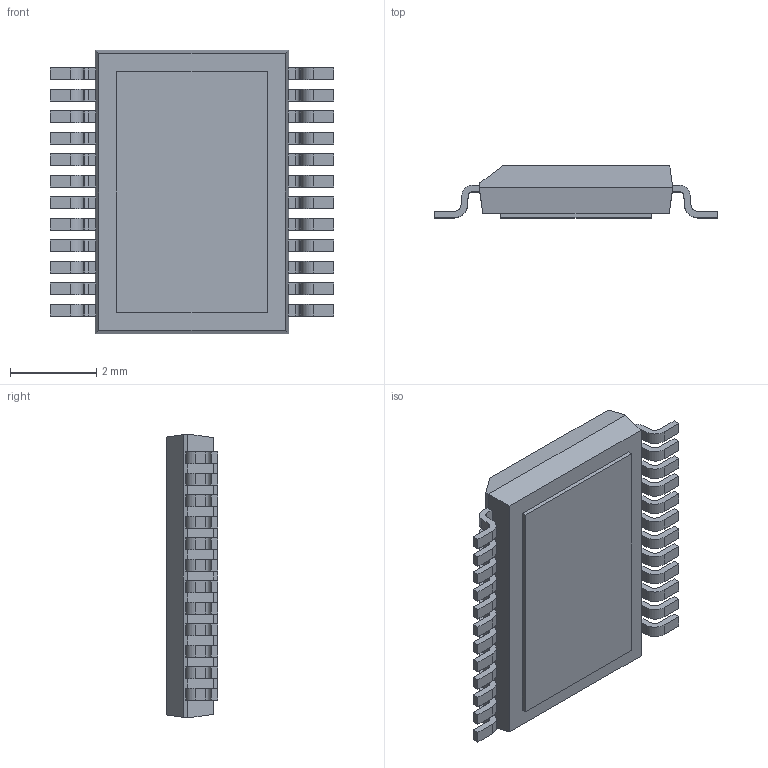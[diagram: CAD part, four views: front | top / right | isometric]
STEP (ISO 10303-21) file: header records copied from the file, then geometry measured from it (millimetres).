
FILE_DESCRIPTION (( 'STEP AP214' ), '1' );
FILE_NAME ('TSSOP50P640X120-24TP_MO-153.BBT.STEP', '2014-10-29T08:29:54', ( 'Tester2' ), ( '' ), 'SwSTEP 2.0', 'SolidWorks 2012', '' );
FILE_SCHEMA (( 'AUTOMOTIVE_DESIGN' ));
Length unit declared in the file: millimetre
Products named in the file (1): TSSOP50P640X120-24TP_MO-153.BBT
Bounding box: 6.6 x 1.2 x 6.6 mm (x, y, z)
Volume: 34.5 mm3; surface area: 110.3 mm2
Topology: 1 solids, 1 shells, 331 faces, 977 edges, 650 vertices
Faces by surface type: plane 233, cylinder 98
Entity records: 14549 total; most frequent: CARTESIAN_POINT 1959, ORIENTED_EDGE 1954, DIRECTION 1837, EDGE_CURVE 977, VECTOR 781, LINE 781, VERTEX_POINT 650, AXIS2_PLACEMENT_3D 528
